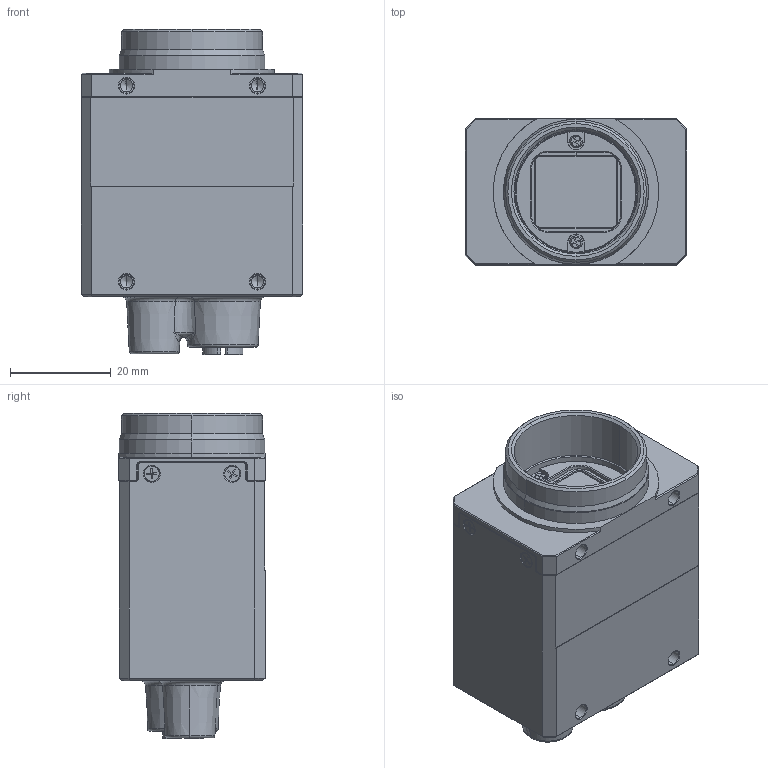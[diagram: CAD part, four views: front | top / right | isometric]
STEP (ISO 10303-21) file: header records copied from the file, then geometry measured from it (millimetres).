
FILE_DESCRIPTION (( 'STEP AP203' ), '1' );
FILE_NAME ('492-496-C_LW.STEP', '2025-03-10T16:01:54', ( '' ), ( '' ), 'SwSTEP 2.0', 'SolidWorks 2021', '' );
FILE_SCHEMA (( 'CONFIG_CONTROL_DESIGN' ));
Length unit declared in the file: millimetre
Products named in the file (1): 492-496-C_LW
Bounding box: 44 x 29 x 64.53 mm (x, y, z)
Volume: 57769.4 mm3; surface area: 12867.2 mm2
Topology: 3 solids, 9 shells, 765 faces, 1902 edges, 1192 vertices
Faces by surface type: plane 338, cylinder 192, cone 121, bspline 84, torus 30
Entity records: 25533 total; most frequent: CARTESIAN_POINT 7602, ORIENTED_EDGE 3764, DIRECTION 3722, EDGE_CURVE 1882, AXIS2_PLACEMENT_3D 1372, VERTEX_POINT 1192, VECTOR 978, LINE 978
